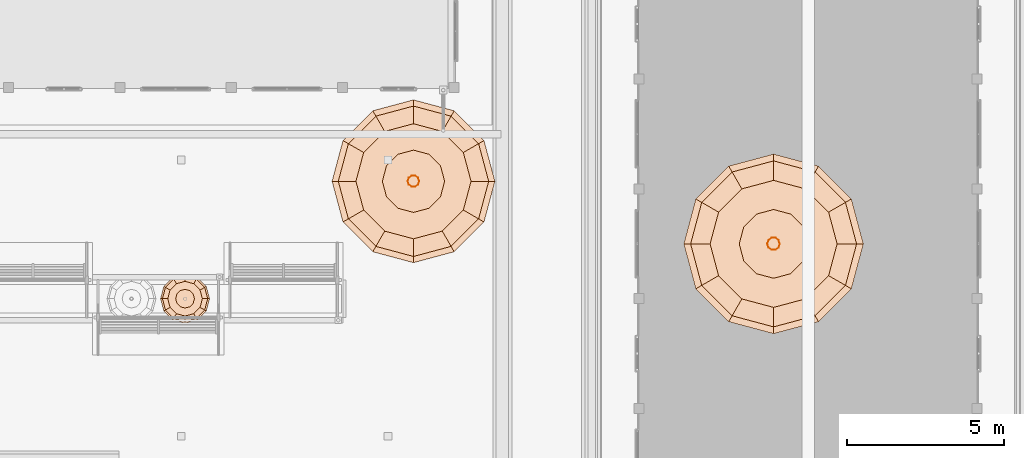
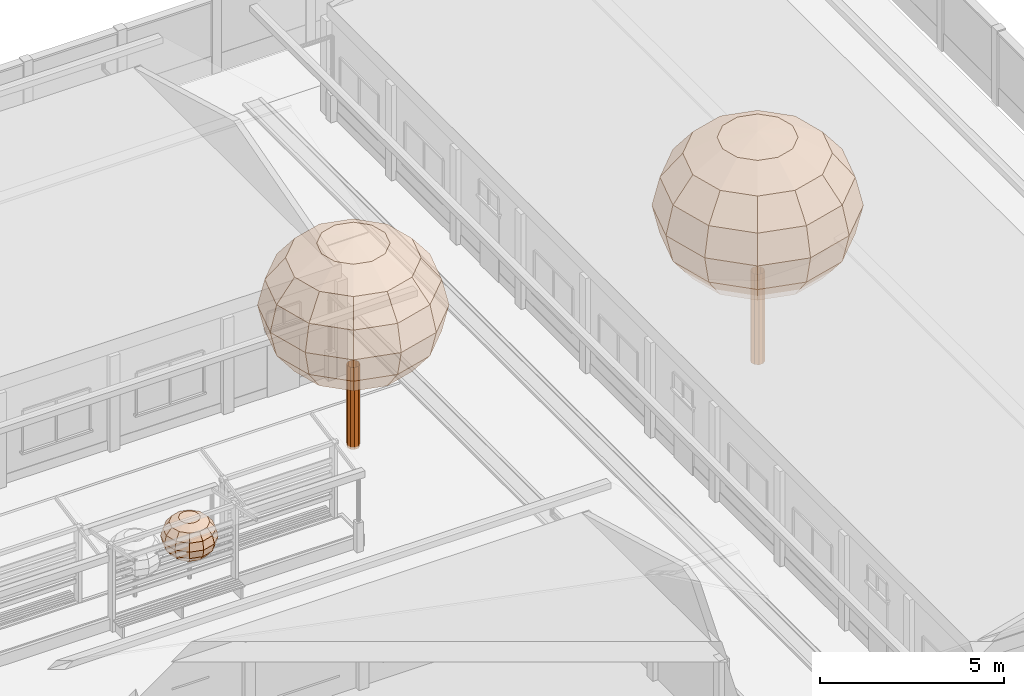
# One storey, part 173 of 177: 5 geographic elements.
"""IFC4 building model written with IfcOpenShell, lengths in metres."""

from ifc_helpers import new_model, si_unit, origin, origin_with_axes, place, context, subcontext, project, spatial, triangles, element, save


model = new_model("IFC4")

# Units and contexts
model_context = context("Model", 3, precision=1e-05, world=origin_with_axes())
body_context = subcontext(model_context, "Body", "Model", "MODEL_VIEW")
ifc_project = project(units=[si_unit("LENGTHUNIT", "METRE"), si_unit("AREAUNIT", "SQUARE_METRE"), si_unit("VOLUMEUNIT", "CUBIC_METRE"), si_unit("PLANEANGLEUNIT", "RADIAN")], contexts=[model_context])

# Site, building, storey
site_placement = place(None, origin_with_axes())
site = spatial("IfcSite", under=ifc_project, at=site_placement, Name="Predio Los Mangos - Morales, San Martín", CompositionType="ELEMENT")
building_placement = place(site_placement, origin())
building = spatial("IfcBuilding", under=site, at=building_placement, Name="Hogar de Refugio Temporal", CompositionType="ELEMENT")
storey_placement = place(building_placement, origin())
storey = spatial("IfcBuildingStorey", under=building, at=storey_placement, Name="NIVEL 1 (NPT +0.00)", CompositionType="ELEMENT", Elevation=0.0)

# Geographic elements
geographic_element_1_placement = place(storey_placement, origin())
element("IfcGeographicElement", 1, at=geographic_element_1_placement, inside=storey, Name="arbol_tronco", ObjectType="Árbol", PredefinedType="NOTDEFINED", context=body_context, shape_type="Tessellation", body=[
    triangles([(48.6808, 114.0, 0.0), (48.6463, 114.1063, 0.0), (48.5559, 114.172, 0.0), (48.4441, 114.172, 0.0), (48.3537, 114.1063, 0.0), (48.3192, 114.0, 0.0), (48.3537, 113.8937, 0.0), (48.4441, 113.828, 0.0), (48.5559, 113.828, 0.0), (48.6463, 113.8937, 0.0), (48.6808, 114.0, 2.7122), (48.6463, 114.1063, 2.7122), (48.5559, 114.172, 2.7122), (48.4441, 114.172, 2.7122), (48.3537, 114.1063, 2.7122), (48.3192, 114.0, 2.7122), (48.3537, 113.8937, 2.7122), (48.4441, 113.828, 2.7122), (48.5559, 113.828, 2.7122), (48.6463, 113.8937, 2.7122)], [[1, 2, 12], [2, 3, 13], [3, 4, 14], [4, 5, 15], [5, 6, 16], [6, 7, 17], [7, 8, 18], [8, 9, 19], [9, 10, 20], [10, 1, 11], [1, 12, 11], [2, 13, 12], [3, 14, 13], [4, 15, 14], [5, 16, 15], [6, 17, 16], [7, 18, 17], [8, 19, 18], [9, 20, 19], [10, 11, 20]]),
])
geographic_element_2_placement = place(storey_placement, origin())
element("IfcGeographicElement", 2, at=geographic_element_2_placement, inside=storey, Name="arbol_copa", ObjectType="Árbol", PredefinedType="NOTDEFINED", context=body_context, shape_type="Tessellation", body=[
    triangles([(48.5, 114.0, 6.871), (48.5, 114.0, 6.871), (48.5, 114.0, 6.871), (48.5, 114.0, 6.871), (48.5, 114.0, 6.871), (48.5, 114.0, 6.871), (48.5, 114.0, 6.871), (48.5, 114.0, 6.871), (48.5, 114.0, 6.871), (48.5, 114.0, 6.871), (48.5, 114.0, 6.871), (48.5, 114.0, 6.871), (49.4947, 114.0, 6.7028), (49.3614, 114.4973, 6.7028), (48.9973, 114.8614, 6.7028), (48.5, 114.9947, 6.7028), (48.0027, 114.8614, 6.7028), (47.6386, 114.4973, 6.7028), (47.5053, 114.0, 6.7028), (47.6386, 113.5027, 6.7028), (48.0027, 113.1386, 6.7028), (48.5, 113.0053, 6.7028), (48.9973, 113.1386, 6.7028), (49.3614, 113.5027, 6.7028), (50.3379, 114.0, 6.2239), (50.0917, 114.919, 6.2239), (49.419, 115.5917, 6.2239), (48.5, 115.8379, 6.2239), (47.581, 115.5917, 6.2239), (46.9083, 114.919, 6.2239), (46.6621, 114.0, 6.2239), (46.9083, 113.081, 6.2239), (47.581, 112.4083, 6.2239), (48.5, 112.1621, 6.2239), (49.419, 112.4083, 6.2239), (50.0917, 113.081, 6.2239), (50.9014, 114.0, 5.5071), (50.5796, 115.2007, 5.5071), (49.7007, 116.0796, 5.5071), (48.5, 116.4014, 5.5071), (47.2993, 116.0796, 5.5071), (46.4204, 115.2007, 5.5071), (46.0986, 114.0, 5.5071), (46.4204, 112.7993, 5.5071), (47.2993, 111.9204, 5.5071), (48.5, 111.5986, 5.5071), (49.7007, 111.9204, 5.5071), (50.5796, 112.7993, 5.5071), (51.0992, 114.0, 4.6616), (50.751, 115.2996, 4.6616), (49.7996, 116.251, 4.6616), (48.5, 116.5992, 4.6616), (47.2004, 116.251, 4.6616), (46.249, 115.2996, 4.6616), (45.9008, 114.0, 4.6616), (46.249, 112.7004, 4.6616), (47.2004, 111.749, 4.6616), (48.5, 111.4008, 4.6616), (49.7996, 111.749, 4.6616), (50.751, 112.7004, 4.6616), (50.9014, 114.0, 3.8162), (50.5796, 115.2007, 3.8162), (49.7007, 116.0796, 3.8162), (48.5, 116.4014, 3.8162), (47.2993, 116.0796, 3.8162), (46.4204, 115.2007, 3.8162), (46.0986, 114.0, 3.8162), (46.4204, 112.7993, 3.8162), (47.2993, 111.9204, 3.8162), (48.5, 111.5986, 3.8162), (49.7007, 111.9204, 3.8162), (50.5796, 112.7993, 3.8162), (50.3379, 114.0, 3.0994), (50.0917, 114.919, 3.0994), (49.419, 115.5917, 3.0994), (48.5, 115.8379, 3.0994), (47.581, 115.5917, 3.0994), (46.9083, 114.919, 3.0994), (46.6621, 114.0, 3.0994), (46.9083, 113.081, 3.0994), (47.581, 112.4083, 3.0994), (48.5, 112.1621, 3.0994), (49.419, 112.4083, 3.0994), (50.0917, 113.081, 3.0994), (49.4947, 114.0, 2.6205), (49.3614, 114.4973, 2.6205), (48.9973, 114.8614, 2.6205), (48.5, 114.9947, 2.6205), (48.0027, 114.8614, 2.6205), (47.6386, 114.4973, 2.6205), (47.5053, 114.0, 2.6205), (47.6386, 113.5027, 2.6205), (48.0027, 113.1386, 2.6205), (48.5, 113.0053, 2.6205), (48.9973, 113.1386, 2.6205), (49.3614, 113.5027, 2.6205), (48.5, 114.0, 2.4523), (48.5, 114.0, 2.4523), (48.5, 114.0, 2.4523), (48.5, 114.0, 2.4523), (48.5, 114.0, 2.4523), (48.5, 114.0, 2.4523), (48.5, 114.0, 2.4523), (48.5, 114.0, 2.4523), (48.5, 114.0, 2.4523), (48.5, 114.0, 2.4523), (48.5, 114.0, 2.4523), (48.5, 114.0, 2.4523)], [[1, 2, 14], [1, 14, 13], [2, 3, 15], [2, 15, 14], [3, 4, 16], [3, 16, 15], [4, 5, 17], [4, 17, 16], [5, 6, 18], [5, 18, 17], [6, 7, 19], [6, 19, 18], [7, 8, 20], [7, 20, 19], [8, 9, 21], [8, 21, 20], [9, 10, 22], [9, 22, 21], [10, 11, 23], [10, 23, 22], [11, 12, 24], [11, 24, 23], [12, 1, 13], [12, 13, 24], [13, 14, 26], [13, 26, 25], [14, 15, 27], [14, 27, 26], [15, 16, 28], [15, 28, 27], [16, 17, 29], [16, 29, 28], [17, 18, 30], [17, 30, 29], [18, 19, 31], [18, 31, 30], [19, 20, 32], [19, 32, 31], [20, 21, 33], [20, 33, 32], [21, 22, 34], [21, 34, 33], [22, 23, 35], [22, 35, 34], [23, 24, 36], [23, 36, 35], [24, 13, 25], [24, 25, 36], [25, 26, 38], [25, 38, 37], [26, 27, 39], [26, 39, 38], [27, 28, 40], [27, 40, 39], [28, 29, 41], [28, 41, 40], [29, 30, 42], [29, 42, 41], [30, 31, 43], [30, 43, 42], [31, 32, 44], [31, 44, 43], [32, 33, 45], [32, 45, 44], [33, 34, 46], [33, 46, 45], [34, 35, 47], [34, 47, 46], [35, 36, 48], [35, 48, 47], [36, 25, 37], [36, 37, 48], [37, 38, 50], [37, 50, 49], [38, 39, 51], [38, 51, 50], [39, 40, 52], [39, 52, 51], [40, 41, 53], [40, 53, 52], [41, 42, 54], [41, 54, 53], [42, 43, 55], [42, 55, 54], [43, 44, 56], [43, 56, 55], [44, 45, 57], [44, 57, 56], [45, 46, 58], [45, 58, 57], [46, 47, 59], [46, 59, 58], [47, 48, 60], [47, 60, 59], [48, 37, 49], [48, 49, 60], [49, 50, 62], [49, 62, 61], [50, 51, 63], [50, 63, 62], [51, 52, 64], [51, 64, 63], [52, 53, 65], [52, 65, 64], [53, 54, 66], [53, 66, 65], [54, 55, 67], [54, 67, 66], [55, 56, 68], [55, 68, 67], [56, 57, 69], [56, 69, 68], [57, 58, 70], [57, 70, 69], [58, 59, 71], [58, 71, 70], [59, 60, 72], [59, 72, 71], [60, 49, 61], [60, 61, 72], [61, 62, 74], [61, 74, 73], [62, 63, 75], [62, 75, 74], [63, 64, 76], [63, 76, 75], [64, 65, 77], [64, 77, 76], [65, 66, 78], [65, 78, 77], [66, 67, 79], [66, 79, 78], [67, 68, 80], [67, 80, 79], [68, 69, 81], [68, 81, 80], [69, 70, 82], [69, 82, 81], [70, 71, 83], [70, 83, 82], [71, 72, 84], [71, 84, 83], [72, 61, 73], [72, 73, 84], [73, 74, 86], [73, 86, 85], [74, 75, 87], [74, 87, 86], [75, 76, 88], [75, 88, 87], [76, 77, 89], [76, 89, 88], [77, 78, 90], [77, 90, 89], [78, 79, 91], [78, 91, 90], [79, 80, 92], [79, 92, 91], [80, 81, 93], [80, 93, 92], [81, 82, 94], [81, 94, 93], [82, 83, 95], [82, 95, 94], [83, 84, 96], [83, 96, 95], [84, 73, 85], [84, 85, 96], [85, 86, 98], [85, 98, 97], [86, 87, 99], [86, 99, 98], [87, 88, 100], [87, 100, 99], [88, 89, 101], [88, 101, 100], [89, 90, 102], [89, 102, 101], [90, 91, 103], [90, 103, 102], [91, 92, 104], [91, 104, 103], [92, 93, 105], [92, 105, 104], [93, 94, 106], [93, 106, 105], [94, 95, 107], [94, 107, 106], [95, 96, 108], [95, 108, 107], [96, 85, 97], [96, 97, 108]]),
])
geographic_element_3_placement = place(storey_placement, origin())
element("IfcGeographicElement", 3, at=geographic_element_3_placement, inside=storey, Name="arbol_tronco", ObjectType="Árbol", PredefinedType="NOTDEFINED", context=body_context, shape_type="Tessellation", body=[
    triangles([(60.1996, 112.0, 0.0), (60.1614, 112.1173, 0.0), (60.0617, 112.1898, 0.0), (59.9383, 112.1898, 0.0), (59.8386, 112.1173, 0.0), (59.8004, 112.0, 0.0), (59.8386, 111.8827, 0.0), (59.9383, 111.8102, 0.0), (60.0617, 111.8102, 0.0), (60.1614, 111.8827, 0.0), (60.1996, 112.0, 2.9934), (60.1614, 112.1173, 2.9934), (60.0617, 112.1898, 2.9934), (59.9383, 112.1898, 2.9934), (59.8386, 112.1173, 2.9934), (59.8004, 112.0, 2.9934), (59.8386, 111.8827, 2.9934), (59.9383, 111.8102, 2.9934), (60.0617, 111.8102, 2.9934), (60.1614, 111.8827, 2.9934)], [[1, 2, 12], [2, 3, 13], [3, 4, 14], [4, 5, 15], [5, 6, 16], [6, 7, 17], [7, 8, 18], [8, 9, 19], [9, 10, 20], [10, 1, 11], [1, 12, 11], [2, 13, 12], [3, 14, 13], [4, 15, 14], [5, 16, 15], [6, 17, 16], [7, 18, 17], [8, 19, 18], [9, 20, 19], [10, 11, 20]]),
])
geographic_element_4_placement = place(storey_placement, origin())
element("IfcGeographicElement", 4, at=geographic_element_4_placement, inside=storey, Name="arbol_copa", ObjectType="Árbol", PredefinedType="NOTDEFINED", context=body_context, shape_type="Tessellation", body=[
    triangles([(60.0, 112.0, 7.5832), (60.0, 112.0, 7.5832), (60.0, 112.0, 7.5832), (60.0, 112.0, 7.5832), (60.0, 112.0, 7.5832), (60.0, 112.0, 7.5832), (60.0, 112.0, 7.5832), (60.0, 112.0, 7.5832), (60.0, 112.0, 7.5832), (60.0, 112.0, 7.5832), (60.0, 112.0, 7.5832), (60.0, 112.0, 7.5832), (61.0978, 112.0, 7.3976), (60.9507, 112.5489, 7.3976), (60.5489, 112.9507, 7.3976), (60.0, 113.0978, 7.3976), (59.4511, 112.9507, 7.3976), (59.0493, 112.5489, 7.3976), (58.9022, 112.0, 7.3976), (59.0493, 111.4511, 7.3976), (59.4511, 111.0493, 7.3976), (60.0, 110.9022, 7.3976), (60.5489, 111.0493, 7.3976), (60.9507, 111.4511, 7.3976), (62.0284, 112.0, 6.869), (61.7567, 113.0142, 6.869), (61.0142, 113.7567, 6.869), (60.0, 114.0284, 6.869), (58.9858, 113.7567, 6.869), (58.2433, 113.0142, 6.869), (57.9716, 112.0, 6.869), (58.2433, 110.9858, 6.869), (58.9858, 110.2433, 6.869), (60.0, 109.9716, 6.869), (61.0142, 110.2433, 6.869), (61.7567, 110.9858, 6.869), (62.6503, 112.0, 6.078), (62.2952, 113.3251, 6.078), (61.3251, 114.2952, 6.078), (60.0, 114.6503, 6.078), (58.6749, 114.2952, 6.078), (57.7048, 113.3251, 6.078), (57.3497, 112.0, 6.078), (57.7048, 110.6749, 6.078), (58.6749, 109.7048, 6.078), (60.0, 109.3497, 6.078), (61.3251, 109.7048, 6.078), (62.2952, 110.6749, 6.078), (62.8686, 112.0, 5.1449), (62.4843, 113.4343, 5.1449), (61.4343, 114.4843, 5.1449), (60.0, 114.8686, 5.1449), (58.5657, 114.4843, 5.1449), (57.5157, 113.4343, 5.1449), (57.1314, 112.0, 5.1449), (57.5157, 110.5657, 5.1449), (58.5657, 109.5157, 5.1449), (60.0, 109.1314, 5.1449), (61.4343, 109.5157, 5.1449), (62.4843, 110.5657, 5.1449), (62.6503, 112.0, 4.2117), (62.2952, 113.3251, 4.2117), (61.3251, 114.2952, 4.2117), (60.0, 114.6503, 4.2117), (58.6749, 114.2952, 4.2117), (57.7048, 113.3251, 4.2117), (57.3497, 112.0, 4.2117), (57.7048, 110.6749, 4.2117), (58.6749, 109.7048, 4.2117), (60.0, 109.3497, 4.2117), (61.3251, 109.7048, 4.2117), (62.2952, 110.6749, 4.2117), (62.0284, 112.0, 3.4207), (61.7567, 113.0142, 3.4207), (61.0142, 113.7567, 3.4207), (60.0, 114.0284, 3.4207), (58.9858, 113.7567, 3.4207), (58.2433, 113.0142, 3.4207), (57.9716, 112.0, 3.4207), (58.2433, 110.9858, 3.4207), (58.9858, 110.2433, 3.4207), (60.0, 109.9716, 3.4207), (61.0142, 110.2433, 3.4207), (61.7567, 110.9858, 3.4207), (61.0978, 112.0, 2.8921), (60.9507, 112.5489, 2.8921), (60.5489, 112.9507, 2.8921), (60.0, 113.0978, 2.8921), (59.4511, 112.9507, 2.8921), (59.0493, 112.5489, 2.8921), (58.9022, 112.0, 2.8921), (59.0493, 111.4511, 2.8921), (59.4511, 111.0493, 2.8921), (60.0, 110.9022, 2.8921), (60.5489, 111.0493, 2.8921), (60.9507, 111.4511, 2.8921), (60.0, 112.0, 2.7065), (60.0, 112.0, 2.7065), (60.0, 112.0, 2.7065), (60.0, 112.0, 2.7065), (60.0, 112.0, 2.7065), (60.0, 112.0, 2.7065), (60.0, 112.0, 2.7065), (60.0, 112.0, 2.7065), (60.0, 112.0, 2.7065), (60.0, 112.0, 2.7065), (60.0, 112.0, 2.7065), (60.0, 112.0, 2.7065)], [[1, 2, 14], [1, 14, 13], [2, 3, 15], [2, 15, 14], [3, 4, 16], [3, 16, 15], [4, 5, 17], [4, 17, 16], [5, 6, 18], [5, 18, 17], [6, 7, 19], [6, 19, 18], [7, 8, 20], [7, 20, 19], [8, 9, 21], [8, 21, 20], [9, 10, 22], [9, 22, 21], [10, 11, 23], [10, 23, 22], [11, 12, 24], [11, 24, 23], [12, 1, 13], [12, 13, 24], [13, 14, 26], [13, 26, 25], [14, 15, 27], [14, 27, 26], [15, 16, 28], [15, 28, 27], [16, 17, 29], [16, 29, 28], [17, 18, 30], [17, 30, 29], [18, 19, 31], [18, 31, 30], [19, 20, 32], [19, 32, 31], [20, 21, 33], [20, 33, 32], [21, 22, 34], [21, 34, 33], [22, 23, 35], [22, 35, 34], [23, 24, 36], [23, 36, 35], [24, 13, 25], [24, 25, 36], [25, 26, 38], [25, 38, 37], [26, 27, 39], [26, 39, 38], [27, 28, 40], [27, 40, 39], [28, 29, 41], [28, 41, 40], [29, 30, 42], [29, 42, 41], [30, 31, 43], [30, 43, 42], [31, 32, 44], [31, 44, 43], [32, 33, 45], [32, 45, 44], [33, 34, 46], [33, 46, 45], [34, 35, 47], [34, 47, 46], [35, 36, 48], [35, 48, 47], [36, 25, 37], [36, 37, 48], [37, 38, 50], [37, 50, 49], [38, 39, 51], [38, 51, 50], [39, 40, 52], [39, 52, 51], [40, 41, 53], [40, 53, 52], [41, 42, 54], [41, 54, 53], [42, 43, 55], [42, 55, 54], [43, 44, 56], [43, 56, 55], [44, 45, 57], [44, 57, 56], [45, 46, 58], [45, 58, 57], [46, 47, 59], [46, 59, 58], [47, 48, 60], [47, 60, 59], [48, 37, 49], [48, 49, 60], [49, 50, 62], [49, 62, 61], [50, 51, 63], [50, 63, 62], [51, 52, 64], [51, 64, 63], [52, 53, 65], [52, 65, 64], [53, 54, 66], [53, 66, 65], [54, 55, 67], [54, 67, 66], [55, 56, 68], [55, 68, 67], [56, 57, 69], [56, 69, 68], [57, 58, 70], [57, 70, 69], [58, 59, 71], [58, 71, 70], [59, 60, 72], [59, 72, 71], [60, 49, 61], [60, 61, 72], [61, 62, 74], [61, 74, 73], [62, 63, 75], [62, 75, 74], [63, 64, 76], [63, 76, 75], [64, 65, 77], [64, 77, 76], [65, 66, 78], [65, 78, 77], [66, 67, 79], [66, 79, 78], [67, 68, 80], [67, 80, 79], [68, 69, 81], [68, 81, 80], [69, 70, 82], [69, 82, 81], [70, 71, 83], [70, 83, 82], [71, 72, 84], [71, 84, 83], [72, 61, 73], [72, 73, 84], [73, 74, 86], [73, 86, 85], [74, 75, 87], [74, 87, 86], [75, 76, 88], [75, 88, 87], [76, 77, 89], [76, 89, 88], [77, 78, 90], [77, 90, 89], [78, 79, 91], [78, 91, 90], [79, 80, 92], [79, 92, 91], [80, 81, 93], [80, 93, 92], [81, 82, 94], [81, 94, 93], [82, 83, 95], [82, 95, 94], [83, 84, 96], [83, 96, 95], [84, 73, 85], [84, 85, 96], [85, 86, 98], [85, 98, 97], [86, 87, 99], [86, 99, 98], [87, 88, 100], [87, 100, 99], [88, 89, 101], [88, 101, 100], [89, 90, 102], [89, 102, 101], [90, 91, 103], [90, 103, 102], [91, 92, 104], [91, 104, 103], [92, 93, 105], [92, 105, 104], [93, 94, 106], [93, 106, 105], [94, 95, 107], [94, 107, 106], [95, 96, 108], [95, 108, 107], [96, 85, 97], [96, 97, 108]]),
])
geographic_element_5_placement = place(storey_placement, origin())
element("IfcGeographicElement", 5, at=geographic_element_5_placement, inside=storey, Name="arbol_copa", ObjectType="Árbol", PredefinedType="NOTDEFINED", context=body_context, shape_type="Tessellation", body=[
    triangles([(41.205, 110.25, 2.5172), (41.205, 110.25, 2.5172), (41.205, 110.25, 2.5172), (41.205, 110.25, 2.5172), (41.205, 110.25, 2.5172), (41.205, 110.25, 2.5172), (41.205, 110.25, 2.5172), (41.205, 110.25, 2.5172), (41.205, 110.25, 2.5172), (41.205, 110.25, 2.5172), (41.205, 110.25, 2.5172), (41.205, 110.25, 2.5172), (41.5043, 110.25, 2.4666), (41.4642, 110.3996, 2.4666), (41.3546, 110.5092, 2.4666), (41.205, 110.5493, 2.4666), (41.0554, 110.5092, 2.4666), (40.9458, 110.3996, 2.4666), (40.9057, 110.25, 2.4666), (40.9458, 110.1004, 2.4666), (41.0554, 109.9908, 2.4666), (41.205, 109.9507, 2.4666), (41.3546, 109.9908, 2.4666), (41.4642, 110.1004, 2.4666), (41.758, 110.25, 2.3225), (41.6839, 110.5265, 2.3225), (41.4815, 110.7289, 2.3225), (41.205, 110.803, 2.3225), (40.9285, 110.7289, 2.3225), (40.7261, 110.5265, 2.3225), (40.652, 110.25, 2.3225), (40.7261, 109.9735, 2.3225), (40.9285, 109.7711, 2.3225), (41.205, 109.697, 2.3225), (41.4815, 109.7711, 2.3225), (41.6839, 109.9735, 2.3225), (41.9275, 110.25, 2.1069), (41.8307, 110.6112, 2.1069), (41.5662, 110.8757, 2.1069), (41.205, 110.9725, 2.1069), (40.8438, 110.8757, 2.1069), (40.5793, 110.6112, 2.1069), (40.4825, 110.25, 2.1069), (40.5793, 109.8888, 2.1069), (40.8438, 109.6243, 2.1069), (41.205, 109.5275, 2.1069), (41.5662, 109.6243, 2.1069), (41.8307, 109.8888, 2.1069), (41.987, 110.25, 1.8525), (41.8822, 110.641, 1.8525), (41.596, 110.9272, 1.8525), (41.205, 111.032, 1.8525), (40.814, 110.9272, 1.8525), (40.5278, 110.641, 1.8525), (40.423, 110.25, 1.8525), (40.5278, 109.859, 1.8525), (40.814, 109.5728, 1.8525), (41.205, 109.468, 1.8525), (41.596, 109.5728, 1.8525), (41.8822, 109.859, 1.8525), (41.9275, 110.25, 1.5981), (41.8307, 110.6112, 1.5981), (41.5662, 110.8757, 1.5981), (41.205, 110.9725, 1.5981), (40.8438, 110.8757, 1.5981), (40.5793, 110.6112, 1.5981), (40.4825, 110.25, 1.5981), (40.5793, 109.8888, 1.5981), (40.8438, 109.6243, 1.5981), (41.205, 109.5275, 1.5981), (41.5662, 109.6243, 1.5981), (41.8307, 109.8888, 1.5981), (41.758, 110.25, 1.3825), (41.6839, 110.5265, 1.3825), (41.4815, 110.7289, 1.3825), (41.205, 110.803, 1.3825), (40.9285, 110.7289, 1.3825), (40.7261, 110.5265, 1.3825), (40.652, 110.25, 1.3825), (40.7261, 109.9735, 1.3825), (40.9285, 109.7711, 1.3825), (41.205, 109.697, 1.3825), (41.4815, 109.7711, 1.3825), (41.6839, 109.9735, 1.3825), (41.5043, 110.25, 1.2384), (41.4642, 110.3996, 1.2384), (41.3546, 110.5092, 1.2384), (41.205, 110.5493, 1.2384), (41.0554, 110.5092, 1.2384), (40.9458, 110.3996, 1.2384), (40.9057, 110.25, 1.2384), (40.9458, 110.1004, 1.2384), (41.0554, 109.9908, 1.2384), (41.205, 109.9507, 1.2384), (41.3546, 109.9908, 1.2384), (41.4642, 110.1004, 1.2384), (41.205, 110.25, 1.1878), (41.205, 110.25, 1.1878), (41.205, 110.25, 1.1878), (41.205, 110.25, 1.1878), (41.205, 110.25, 1.1878), (41.205, 110.25, 1.1878), (41.205, 110.25, 1.1878), (41.205, 110.25, 1.1878), (41.205, 110.25, 1.1878), (41.205, 110.25, 1.1878), (41.205, 110.25, 1.1878), (41.205, 110.25, 1.1878)], [[1, 2, 14], [1, 14, 13], [2, 3, 15], [2, 15, 14], [3, 4, 16], [3, 16, 15], [4, 5, 17], [4, 17, 16], [5, 6, 18], [5, 18, 17], [6, 7, 19], [6, 19, 18], [7, 8, 20], [7, 20, 19], [8, 9, 21], [8, 21, 20], [9, 10, 22], [9, 22, 21], [10, 11, 23], [10, 23, 22], [11, 12, 24], [11, 24, 23], [12, 1, 13], [12, 13, 24], [13, 14, 26], [13, 26, 25], [14, 15, 27], [14, 27, 26], [15, 16, 28], [15, 28, 27], [16, 17, 29], [16, 29, 28], [17, 18, 30], [17, 30, 29], [18, 19, 31], [18, 31, 30], [19, 20, 32], [19, 32, 31], [20, 21, 33], [20, 33, 32], [21, 22, 34], [21, 34, 33], [22, 23, 35], [22, 35, 34], [23, 24, 36], [23, 36, 35], [24, 13, 25], [24, 25, 36], [25, 26, 38], [25, 38, 37], [26, 27, 39], [26, 39, 38], [27, 28, 40], [27, 40, 39], [28, 29, 41], [28, 41, 40], [29, 30, 42], [29, 42, 41], [30, 31, 43], [30, 43, 42], [31, 32, 44], [31, 44, 43], [32, 33, 45], [32, 45, 44], [33, 34, 46], [33, 46, 45], [34, 35, 47], [34, 47, 46], [35, 36, 48], [35, 48, 47], [36, 25, 37], [36, 37, 48], [37, 38, 50], [37, 50, 49], [38, 39, 51], [38, 51, 50], [39, 40, 52], [39, 52, 51], [40, 41, 53], [40, 53, 52], [41, 42, 54], [41, 54, 53], [42, 43, 55], [42, 55, 54], [43, 44, 56], [43, 56, 55], [44, 45, 57], [44, 57, 56], [45, 46, 58], [45, 58, 57], [46, 47, 59], [46, 59, 58], [47, 48, 60], [47, 60, 59], [48, 37, 49], [48, 49, 60], [49, 50, 62], [49, 62, 61], [50, 51, 63], [50, 63, 62], [51, 52, 64], [51, 64, 63], [52, 53, 65], [52, 65, 64], [53, 54, 66], [53, 66, 65], [54, 55, 67], [54, 67, 66], [55, 56, 68], [55, 68, 67], [56, 57, 69], [56, 69, 68], [57, 58, 70], [57, 70, 69], [58, 59, 71], [58, 71, 70], [59, 60, 72], [59, 72, 71], [60, 49, 61], [60, 61, 72], [61, 62, 74], [61, 74, 73], [62, 63, 75], [62, 75, 74], [63, 64, 76], [63, 76, 75], [64, 65, 77], [64, 77, 76], [65, 66, 78], [65, 78, 77], [66, 67, 79], [66, 79, 78], [67, 68, 80], [67, 80, 79], [68, 69, 81], [68, 81, 80], [69, 70, 82], [69, 82, 81], [70, 71, 83], [70, 83, 82], [71, 72, 84], [71, 84, 83], [72, 61, 73], [72, 73, 84], [73, 74, 86], [73, 86, 85], [74, 75, 87], [74, 87, 86], [75, 76, 88], [75, 88, 87], [76, 77, 89], [76, 89, 88], [77, 78, 90], [77, 90, 89], [78, 79, 91], [78, 91, 90], [79, 80, 92], [79, 92, 91], [80, 81, 93], [80, 93, 92], [81, 82, 94], [81, 94, 93], [82, 83, 95], [82, 95, 94], [83, 84, 96], [83, 96, 95], [84, 73, 85], [84, 85, 96], [85, 86, 98], [85, 98, 97], [86, 87, 99], [86, 99, 98], [87, 88, 100], [87, 100, 99], [88, 89, 101], [88, 101, 100], [89, 90, 102], [89, 102, 101], [90, 91, 103], [90, 103, 102], [91, 92, 104], [91, 104, 103], [92, 93, 105], [92, 105, 104], [93, 94, 106], [93, 106, 105], [94, 95, 107], [94, 107, 106], [95, 96, 108], [95, 108, 107], [96, 85, 97], [96, 97, 108]]),
])

save(model, "model.ifc")
